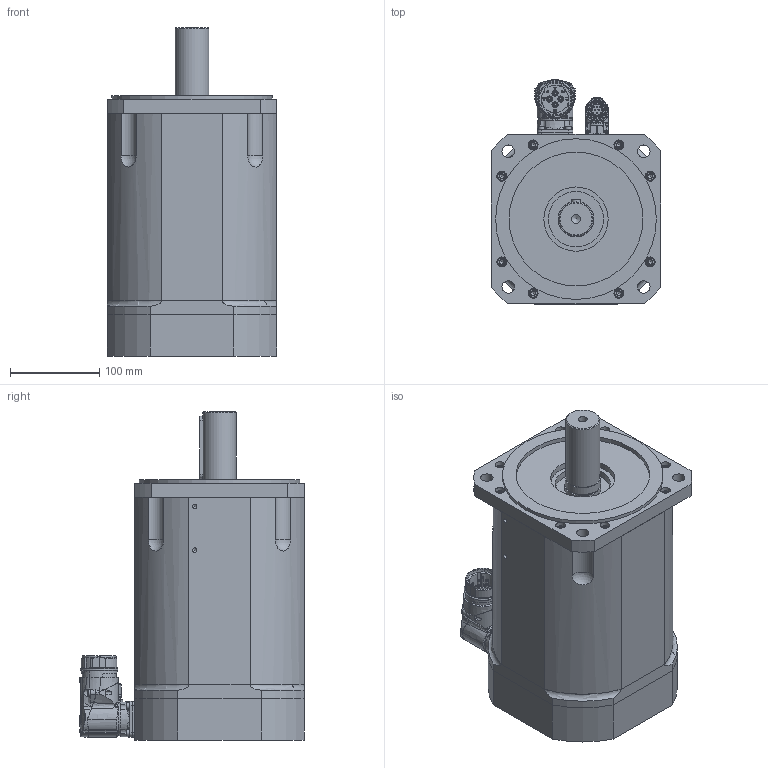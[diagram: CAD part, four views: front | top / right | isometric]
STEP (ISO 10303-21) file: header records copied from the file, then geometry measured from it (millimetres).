
FILE_DESCRIPTION(/* description */ (''),/* implementation_level */ '2;1');
FILE_NAME(/* name */ 'C:\Users\Public\Documents\Autodesk\Inventor LT 2014\Workspace\Motori Sito WEB\TG_6\STEP_DSM5_6x\DSM5_63_x099.stp',/* time_stamp */ '2021-03-31T14:24:01+02:00',/* author */ ('marcor'),/* organization */ (''),/* preprocessor_version */ 'ST-DEVELOPER v15.2',/* originating_system */ 'Autodesk Inventor LT ',/* authorisation */ '');
FILE_SCHEMA (('AUTOMOTIVE_DESIGN { 1 0 10303 214 3 1 1 }'));
Products named in the file (1): DSM5_63_x099
Bounding box: 190 x 251.55 x 368 mm (x, y, z)
Volume: 9253500.4 mm3; surface area: 525690.6 mm2
Topology: 24 solids, 31 shells, 1840 faces, 4736 edges, 3096 vertices
Faces by surface type: plane 798, cylinder 393, cone 388, bspline 137, torus 103, sphere 21
Full cylindrical faces by diameter (mm): 1.2 x12, 2 x2, 2.224 x4, 2.5 x4, 2.88 x4, 3.26 x4, 3.6 x5, 4 x5, 4.5 x1, 4.8 x4, 4.917 x24, 5.4 x1, 5.5 x1, 5.9 x1, 6 x20, 6.5 x20, 7 x4, 8 x3, 8.5 x1, 10 x20, 10.106 x1, 11 x20, 14 x4, 15.2 x1, 17.4 x2, 18 x1, 20 x1, 21.15 x2, 21.653 x1, 24.3 x1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
Entity records: 61110 total; most frequent: CARTESIAN_POINT 18589, ORIENTED_EDGE 8310, DIRECTION 8038, EDGE_CURVE 4155, AXIS2_PLACEMENT_3D 3189, VERTEX_POINT 2947, EDGE_LOOP 2472, ADVANCED_FACE 1840
